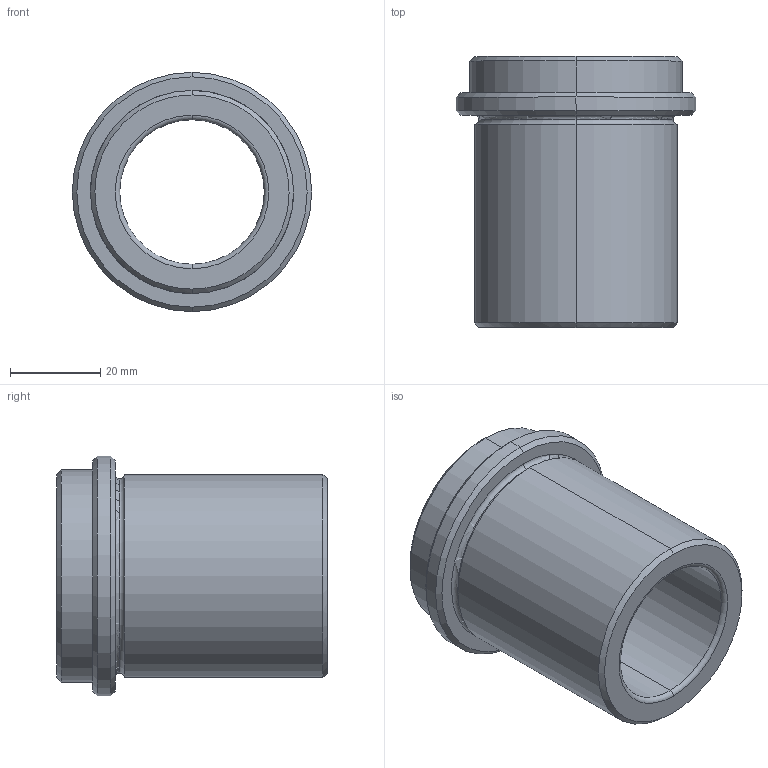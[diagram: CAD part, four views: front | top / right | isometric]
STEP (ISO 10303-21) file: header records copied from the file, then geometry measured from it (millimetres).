
FILE_DESCRIPTION(('CATIA V5 STEP Exchange'),'2;1');
FILE_NAME('C:\Users\Utente\Desktop\IO LAVORO\3D X SITO CF\X SITO\CF 439\CF 439 32x60.stp','2020-12-27T20:59:20+00:00',('none'),('none'),'CATIA Version 5 Release 20 GA (IN-10)','CATIA V5 STEP AP203','none');
FILE_SCHEMA(('CONFIG_CONTROL_DESIGN'));
Length unit declared in the file: millimetre
Products named in the file (1): CF 439 32x60
Bounding box: 53 x 60 x 53 mm (x, y, z)
Volume: 50837.4 mm3; surface area: 17187.8 mm2
Topology: 1 solids, 1 shells, 28 faces, 86 edges, 62 vertices
Faces by surface type: cylinder 8, cone 8, torus 8, plane 4
Entity records: 1104 total; most frequent: CARTESIAN_POINT 289, ORIENTED_EDGE 172, DIRECTION 134, AXIS2_PLACEMENT_3D 91, EDGE_CURVE 86, CIRCLE 62, VERTEX_POINT 62, EDGE_LOOP 32
